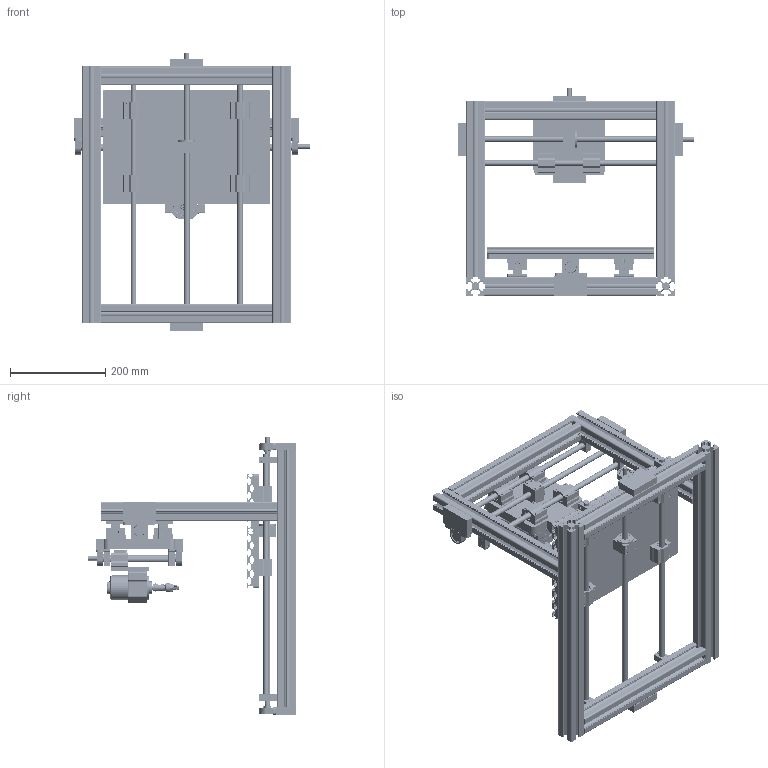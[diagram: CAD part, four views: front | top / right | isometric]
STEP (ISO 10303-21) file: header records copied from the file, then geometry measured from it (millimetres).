
FILE_DESCRIPTION (( 'STEP AP214' ), '1' );
FILE_NAME ('DC.STEP', '2023-04-01T18:29:03', ( '' ), ( '' ), 'SwSTEP 2.0', 'SolidWorks 2016', '' );
FILE_SCHEMA (( 'AUTOMOTIVE_DESIGN' ));
Length unit declared in the file: millimetre
Products named in the file (39): pinça-porca_Valor predeterminado; mancal-traseiro_Valor predeterminado; pinça-corpo-caneta_Valor predeterminado; DC-Z-0003; eixo-spindle_Valor predeterminado; DC-ZY; DC-D-0001_Default<As Machined>; DC-Y-0002; DC-Z-0001; 62561000_1; DC-Z-0002; 62561000_2; DC-Y-0001_Default<As Machined>; ZF20AW-d12-parts2; DC; pinça-fresa_Valor predeterminado; 62561000; CIRCLIP-21-parts1; DC-Z; DC-Y-0003; T12; DC-Z-0004; DC-D-0005; DC-D-0006; DC-D-0002_Default<As Machined>; spindle motor1; screw_Valor predeterminado; SK12; DC-2000; ZF20AW-d12; mancau-frontal_Valor predeterminado; Spindle Holder; DC-Z-0005; DC-D-0004; corpo-cromo_Valor predeterminado; Montagem-pinça_Valor predeterminado; DC-D-0003; DC-Z-0006; DC-D
Assembly tree (74 placements, depth 6):
  DC
    DC-D
      DC-D-0001_Default<As Machined>
      DC-D-0002_Default<As Machined>
      DC-D-0003
      DC-D-0004  x2
      SK12  x4
      62561000  x2
        62561000_2
        62561000_1
      DC-D-0005
      DC-2000
        T12
        DC-Z-0005
      DC-D-0006  x2
      ZF20AW-d12  x4
        CIRCLIP-21-parts1
        ZF20AW-d12-parts2
    DC-ZY
      DC-Y-0001_Default<As Machined>
      SK12  x4
      DC-D-0004  x2
      62561000  x2
        62561000_2
        62561000_1
      DC-Y-0002  x2
      DC-Y-0003
      DC-Z
        DC-Z-0001
        DC-Z-0002  x2
        ZF20AW-d12  x2
          CIRCLIP-21-parts1
          ZF20AW-d12-parts2
        DC-Z-0004  x2
        62561000  x2
          62561000_2
          62561000_1
        DC-Z-0003
        SK12  x4
        DC-2000
          T12
          DC-Z-0005
        DC-Z-0006
        Spindle Holder
        spindle motor1
          corpo-cromo_Valor predeterminado
          mancau-frontal_Valor predeterminado
          mancal-traseiro_Valor predeterminado
          eixo-spindle_Valor predeterminado
          Montagem-pinça_Valor predeterminado
            pinça-corpo-caneta_Valor predeterminado
            pinça-porca_Valor predeterminado
            screw_Valor predeterminado  x2
            pinça-fresa_Valor predeterminado
      ZF20AW-d12  x4
        CIRCLIP-21-parts1
        ZF20AW-d12-parts2
      DC-2000
        T12
        DC-Z-0005
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Bounding box: 494.1 x 437 x 584 mm (x, y, z)
Volume: 5782004.6 mm3; surface area: 2072734.6 mm2
Topology: 97 solids, 97 shells, 5115 faces, 13137 edges, 8318 vertices
Faces by surface type: cylinder 2340, plane 2050, cone 289, bspline 208, torus 120, sphere 108
Full cylindrical faces by diameter (mm): 3 x1
Entity records: 159831 total; most frequent: CARTESIAN_POINT 81884, ORIENTED_EDGE 14394, DIRECTION 11954, EDGE_CURVE 7197, VERTEX_POINT 4673, LINE 4184, VECTOR 4184, AXIS2_PLACEMENT_3D 3885
